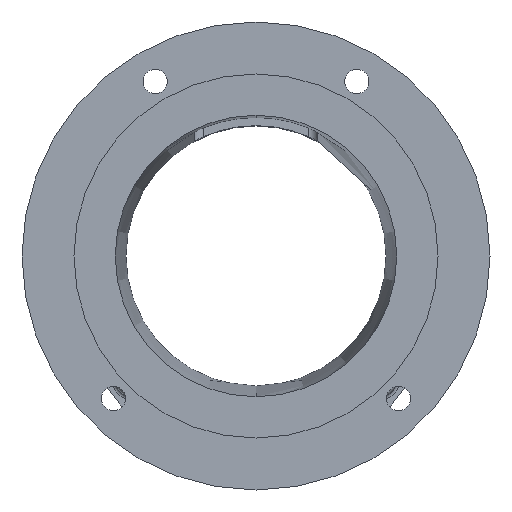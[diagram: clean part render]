
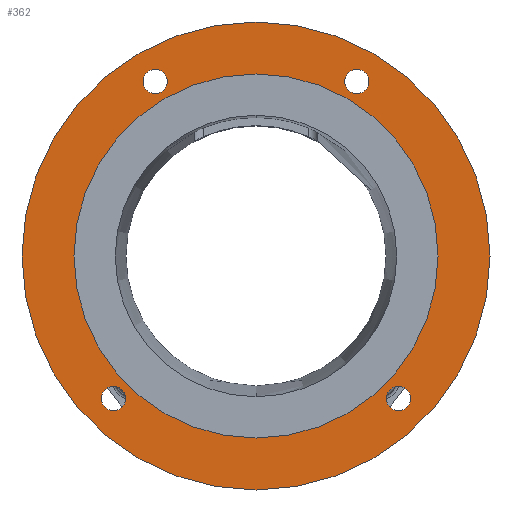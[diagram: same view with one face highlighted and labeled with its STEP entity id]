
A CAD part, front view. The second image highlights one B-rep face of the part: STEP entity #362.
In plain terms, the highlighted planar face has unit normal (0, -1, 0).
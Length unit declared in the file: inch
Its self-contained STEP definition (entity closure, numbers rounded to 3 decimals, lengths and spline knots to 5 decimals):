
#59 = DIRECTION ( 'NONE',  ( 0., 0., -1. ) ) ;
#60 = DIRECTION ( 'NONE',  ( 0., -1., 0. ) ) ;
#62 = CARTESIAN_POINT ( 'NONE',  ( -1.9375, 0., 3.35585 ) ) ;
#95 = VERTEX_POINT ( 'NONE', #6531 ) ;
#235 = CARTESIAN_POINT ( 'NONE',  ( 0., 0., 4.5 ) ) ;
#239 = CARTESIAN_POINT ( 'NONE',  ( -4.5, 0., 0. ) ) ;
#241 = PLANE ( 'NONE',  #6148 ) ;
#357 = AXIS2_PLACEMENT_3D ( 'NONE', #6812, #4928, #5172 ) ;
#362 = ADVANCED_FACE ( 'NONE', ( #3175, #1947, #5834, #4444, #2994, #1607 ), #241, .F. ) ;
#418 = VERTEX_POINT ( 'NONE', #5885 ) ;
#581 = EDGE_LOOP ( 'NONE', ( #1003, #5369 ) ) ;
#784 = AXIS2_PLACEMENT_3D ( 'NONE', #987, #910, #856 ) ;
#795 = EDGE_CURVE ( 'NONE', #5450, #5512, #1200, .T. ) ;
#856 = DIRECTION ( 'NONE',  ( 0., 0., -1. ) ) ;
#910 = DIRECTION ( 'NONE',  ( 0., -1., 0. ) ) ;
#987 = CARTESIAN_POINT ( 'NONE',  ( -1.9375, 0., 3.35585 ) ) ;
#1003 = ORIENTED_EDGE ( 'NONE', *, *, #5966, .F. ) ;
#1078 = CIRCLE ( 'NONE', #6408, 3.501 ) ;
#1103 = EDGE_LOOP ( 'NONE', ( #4271, #3603 ) ) ;
#1156 = EDGE_CURVE ( 'NONE', #3293, #95, #6094, .T. ) ;
#1200 = CIRCLE ( 'NONE', #4472, 0.23438 ) ;
#1274 = AXIS2_PLACEMENT_3D ( 'NONE', #62, #60, #59 ) ;
#1281 = EDGE_LOOP ( 'NONE', ( #1621, #6062 ) ) ;
#1331 = DIRECTION ( 'NONE',  ( 0., 0., -1. ) ) ;
#1347 = DIRECTION ( 'NONE',  ( 0., -1., 0. ) ) ;
#1369 = CARTESIAN_POINT ( 'NONE',  ( -2.74004, 0., -2.74004 ) ) ;
#1376 = ORIENTED_EDGE ( 'NONE', *, *, #2758, .T. ) ;
#1386 = DIRECTION ( 'NONE',  ( 0., 1., 0. ) ) ;
#1411 = CIRCLE ( 'NONE', #3133, 4.5 ) ;
#1415 = DIRECTION ( 'NONE',  ( 0., 0., 1. ) ) ;
#1498 = CIRCLE ( 'NONE', #6100, 4.5 ) ;
#1534 = ORIENTED_EDGE ( 'NONE', *, *, #795, .F. ) ;
#1607 = FACE_OUTER_BOUND ( 'NONE', #1771, .T. ) ;
#1621 = ORIENTED_EDGE ( 'NONE', *, *, #4815, .F. ) ;
#1771 = EDGE_LOOP ( 'NONE', ( #1376, #5831 ) ) ;
#1816 = AXIS2_PLACEMENT_3D ( 'NONE', #2560, #2531, #2515 ) ;
#1947 = FACE_BOUND ( 'NONE', #1281, .T. ) ;
#2009 = AXIS2_PLACEMENT_3D ( 'NONE', #3866, #3871, #3873 ) ;
#2084 = EDGE_CURVE ( 'NONE', #4847, #4870, #6771, .T. ) ;
#2113 = CARTESIAN_POINT ( 'NONE',  ( 1.9375, 0., 3.12147 ) ) ;
#2148 = DIRECTION ( 'NONE',  ( 0., -1., 0. ) ) ;
#2157 = DIRECTION ( 'NONE',  ( 0., 0., -1. ) ) ;
#2172 = CARTESIAN_POINT ( 'NONE',  ( 0., 0., 0. ) ) ;
#2201 = EDGE_CURVE ( 'NONE', #5178, #418, #3549, .T. ) ;
#2328 = CIRCLE ( 'NONE', #1816, 0.23438 ) ;
#2356 = EDGE_CURVE ( 'NONE', #6706, #2360, #1498, .T. ) ;
#2360 = VERTEX_POINT ( 'NONE', #6626 ) ;
#2515 = DIRECTION ( 'NONE',  ( 0., 0., -1. ) ) ;
#2526 = AXIS2_PLACEMENT_3D ( 'NONE', #6420, #6393, #6385 ) ;
#2531 = DIRECTION ( 'NONE',  ( 0., -1., 0. ) ) ;
#2560 = CARTESIAN_POINT ( 'NONE',  ( 1.9375, 0., 3.35585 ) ) ;
#2608 = CIRCLE ( 'NONE', #2526, 0.23438 ) ;
#2640 = CARTESIAN_POINT ( 'NONE',  ( 2.74004, 0., -2.97441 ) ) ;
#2647 = EDGE_LOOP ( 'NONE', ( #2995, #1534 ) ) ;
#2678 = CARTESIAN_POINT ( 'NONE',  ( -2.74004, 0., -2.97441 ) ) ;
#2758 = EDGE_CURVE ( 'NONE', #2360, #6706, #1411, .T. ) ;
#2790 = CARTESIAN_POINT ( 'NONE',  ( -2.74004, 0., -2.50566 ) ) ;
#2899 = DIRECTION ( 'NONE',  ( 0., 0., -1. ) ) ;
#2904 = DIRECTION ( 'NONE',  ( 0., -1., 0. ) ) ;
#2907 = CARTESIAN_POINT ( 'NONE',  ( 1.9375, 0., 3.35585 ) ) ;
#2976 = VERTEX_POINT ( 'NONE', #6554 ) ;
#2994 = FACE_BOUND ( 'NONE', #6263, .T. ) ;
#2995 = ORIENTED_EDGE ( 'NONE', *, *, #4248, .F. ) ;
#3133 = AXIS2_PLACEMENT_3D ( 'NONE', #2172, #2148, #2157 ) ;
#3175 = FACE_BOUND ( 'NONE', #581, .T. ) ;
#3293 = VERTEX_POINT ( 'NONE', #4940 ) ;
#3297 = AXIS2_PLACEMENT_3D ( 'NONE', #1369, #1347, #1331 ) ;
#3549 = CIRCLE ( 'NONE', #1274, 0.23438 ) ;
#3577 = CIRCLE ( 'NONE', #784, 0.23438 ) ;
#3603 = ORIENTED_EDGE ( 'NONE', *, *, #2084, .F. ) ;
#3757 = CARTESIAN_POINT ( 'NONE',  ( 2.74004, 0., -2.50566 ) ) ;
#3866 = CARTESIAN_POINT ( 'NONE',  ( 0., 0., 0. ) ) ;
#3871 = DIRECTION ( 'NONE',  ( 0., -1., 0. ) ) ;
#3873 = DIRECTION ( 'NONE',  ( 0., 0., -1. ) ) ;
#4042 = CARTESIAN_POINT ( 'NONE',  ( -1.9375, 0., 3.59022 ) ) ;
#4071 = CIRCLE ( 'NONE', #6156, 0.23438 ) ;
#4248 = EDGE_CURVE ( 'NONE', #5512, #5450, #2608, .T. ) ;
#4271 = ORIENTED_EDGE ( 'NONE', *, *, #6744, .F. ) ;
#4444 = FACE_BOUND ( 'NONE', #1103, .T. ) ;
#4472 = AXIS2_PLACEMENT_3D ( 'NONE', #5491, #5500, #5503 ) ;
#4569 = CIRCLE ( 'NONE', #357, 0.23438 ) ;
#4815 = EDGE_CURVE ( 'NONE', #6096, #2976, #4071, .T. ) ;
#4847 = VERTEX_POINT ( 'NONE', #2790 ) ;
#4870 = VERTEX_POINT ( 'NONE', #2678 ) ;
#4907 = EDGE_CURVE ( 'NONE', #2976, #6096, #2328, .T. ) ;
#4928 = DIRECTION ( 'NONE',  ( 0., -1., 0. ) ) ;
#4940 = CARTESIAN_POINT ( 'NONE',  ( 0., 0., 3.501 ) ) ;
#5172 = DIRECTION ( 'NONE',  ( 0., 0., -1. ) ) ;
#5178 = VERTEX_POINT ( 'NONE', #4042 ) ;
#5259 = DIRECTION ( 'NONE',  ( 0., 0., -1. ) ) ;
#5264 = DIRECTION ( 'NONE',  ( 0., -1., 0. ) ) ;
#5369 = ORIENTED_EDGE ( 'NONE', *, *, #2201, .F. ) ;
#5450 = VERTEX_POINT ( 'NONE', #3757 ) ;
#5470 = CARTESIAN_POINT ( 'NONE',  ( 0., 0., 0. ) ) ;
#5491 = CARTESIAN_POINT ( 'NONE',  ( 2.74004, 0., -2.74004 ) ) ;
#5500 = DIRECTION ( 'NONE',  ( 0., -1., 0. ) ) ;
#5503 = DIRECTION ( 'NONE',  ( 0., 0., -1. ) ) ;
#5512 = VERTEX_POINT ( 'NONE', #2640 ) ;
#5831 = ORIENTED_EDGE ( 'NONE', *, *, #2356, .T. ) ;
#5834 = FACE_BOUND ( 'NONE', #2647, .T. ) ;
#5865 = ORIENTED_EDGE ( 'NONE', *, *, #1156, .F. ) ;
#5885 = CARTESIAN_POINT ( 'NONE',  ( -1.9375, 0., 3.12147 ) ) ;
#5912 = DIRECTION ( 'NONE',  ( 0., -1., 0. ) ) ;
#5966 = EDGE_CURVE ( 'NONE', #418, #5178, #3577, .T. ) ;
#6062 = ORIENTED_EDGE ( 'NONE', *, *, #4907, .F. ) ;
#6066 = DIRECTION ( 'NONE',  ( 0., 0., -1. ) ) ;
#6072 = CARTESIAN_POINT ( 'NONE',  ( 0., 0., 0. ) ) ;
#6094 = CIRCLE ( 'NONE', #2009, 3.501 ) ;
#6096 = VERTEX_POINT ( 'NONE', #2113 ) ;
#6100 = AXIS2_PLACEMENT_3D ( 'NONE', #6072, #5912, #6066 ) ;
#6148 = AXIS2_PLACEMENT_3D ( 'NONE', #239, #1386, #1415 ) ;
#6156 = AXIS2_PLACEMENT_3D ( 'NONE', #2907, #2904, #2899 ) ;
#6166 = ORIENTED_EDGE ( 'NONE', *, *, #6324, .F. ) ;
#6263 = EDGE_LOOP ( 'NONE', ( #6166, #5865 ) ) ;
#6324 = EDGE_CURVE ( 'NONE', #95, #3293, #1078, .T. ) ;
#6385 = DIRECTION ( 'NONE',  ( 0., 0., -1. ) ) ;
#6393 = DIRECTION ( 'NONE',  ( 0., -1., 0. ) ) ;
#6408 = AXIS2_PLACEMENT_3D ( 'NONE', #5470, #5264, #5259 ) ;
#6420 = CARTESIAN_POINT ( 'NONE',  ( 2.74004, 0., -2.74004 ) ) ;
#6531 = CARTESIAN_POINT ( 'NONE',  ( 0., 0., -3.501 ) ) ;
#6554 = CARTESIAN_POINT ( 'NONE',  ( 1.9375, 0., 3.59022 ) ) ;
#6626 = CARTESIAN_POINT ( 'NONE',  ( 0., 0., -4.5 ) ) ;
#6706 = VERTEX_POINT ( 'NONE', #235 ) ;
#6744 = EDGE_CURVE ( 'NONE', #4870, #4847, #4569, .T. ) ;
#6771 = CIRCLE ( 'NONE', #3297, 0.23438 ) ;
#6812 = CARTESIAN_POINT ( 'NONE',  ( -2.74004, 0., -2.74004 ) ) ;
